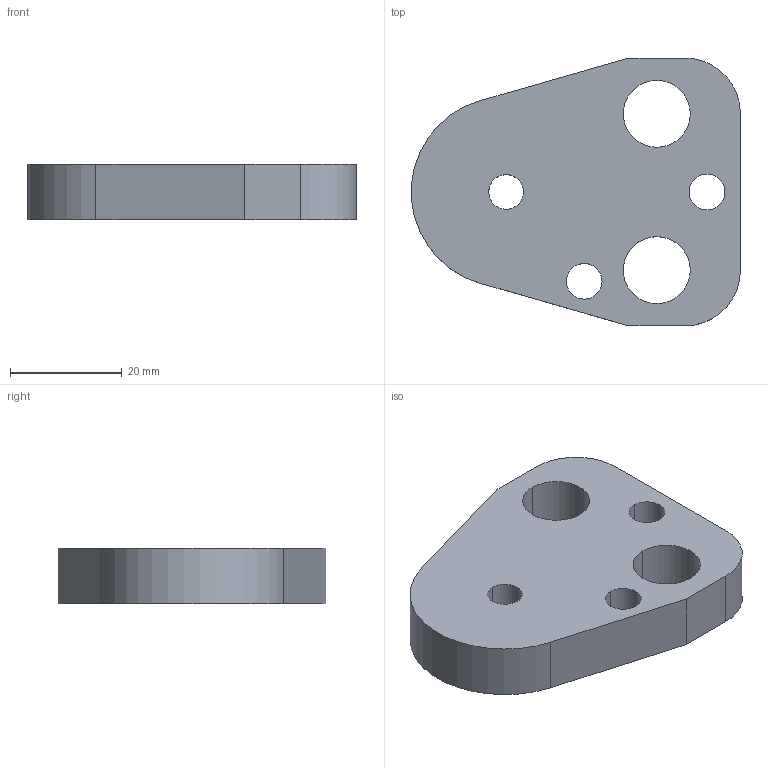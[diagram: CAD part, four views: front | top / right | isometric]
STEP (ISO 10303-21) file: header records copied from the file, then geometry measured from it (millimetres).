
FILE_DESCRIPTION(/* description */ (''),/* implementation_level */ '2;1');
FILE_NAME(/* name */ '3d_bpc20-10_03437_r00.stp',/* time_stamp */ '2011-01-10T14:17:10+09:00',/* author */ ('MISUMI'),/* organization */ (''),/* preprocessor_version */ 'ST-DEVELOPER v11',/* originating_system */ 'UGS - NX 5.0',/* authorisation */ '');
FILE_SCHEMA (('CONFIG_CONTROL_DESIGN'));
Length unit declared in the file: millimetre
Products named in the file (1): 3d_bpc20-10_03437_r00
Bounding box: 58.94 x 48 x 10 mm (x, y, z)
Volume: 19695.8 mm3; surface area: 7078.6 mm2
Topology: 1 solids, 1 shells, 20 faces, 54 edges, 36 vertices
Faces by surface type: cylinder 13, plane 7
Entity records: 750 total; most frequent: DIRECTION 122, CARTESIAN_POINT 111, ORIENTED_EDGE 108, EDGE_CURVE 54, AXIS2_PLACEMENT_3D 47, VERTEX_POINT 36, EDGE_LOOP 30, LINE 28
